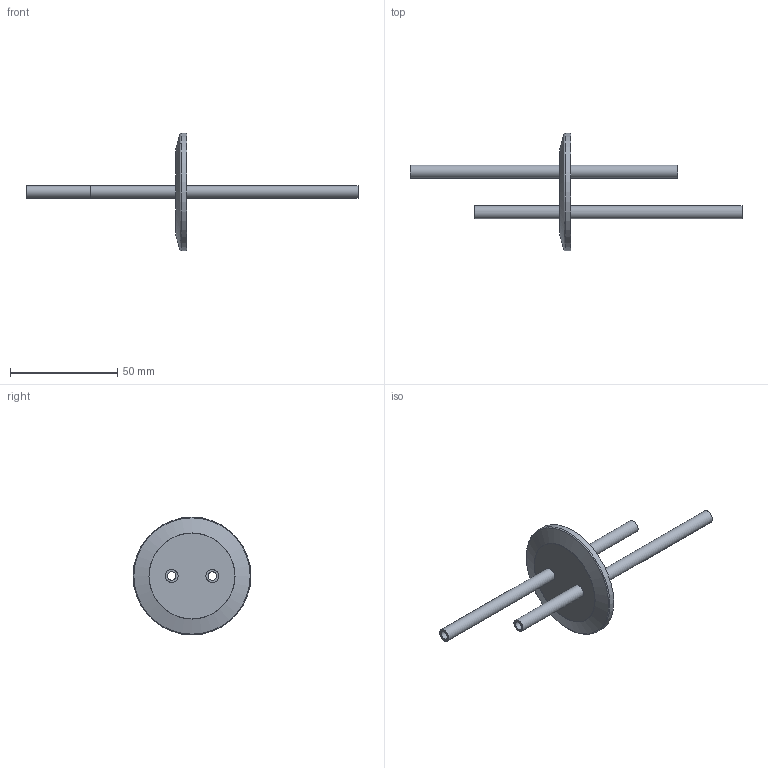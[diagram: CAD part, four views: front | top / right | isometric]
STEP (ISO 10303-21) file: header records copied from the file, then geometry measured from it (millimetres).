
FILE_DESCRIPTION( ( 'Unknown' ), '1' );
FILE_NAME( 'X:/Daten ( aktueller Bestand )/Projekte und Zeichnungen/Solid Edge/STP-Dateien/Adapter KF/1876-6.stp', 'Unknown', ( 'Unknown' ), ( 'Unknown' ), 'PSStep 14.0', 'Unknown', ' ' );
FILE_SCHEMA( ( 'AUTOMOTIVE_DESIGN { 1 0 10303 214 1 1 1 1 }' ) );
Length unit declared in the file: millimetre
Products named in the file (5): 1876-6.2; 1876-6.1; Assem1
Assembly tree (5 placements, depth 3):
  Assem1
    1876-6.1
      1876-6.1
    1876-6.2  x2
      1876-6.2
Bounding box: 155 x 55 x 55 mm (x, y, z)
Volume: 12932.3 mm3; surface area: 13786 mm2
Topology: 3 solids, 3 shells, 22 faces, 41 edges, 27 vertices
Faces by surface type: cylinder 9, plane 8, cone 3, torus 2
Full cylindrical faces by diameter (mm): 4 x2, 6 x4, 31.5 x1, 41.2 x1, 55 x1
Entity records: 640 total; most frequent: DIRECTION 90, CARTESIAN_POINT 64, AXIS2_PLACEMENT_3D 45, EDGE_LOOP 38, ORIENTED_EDGE 38, FACE_OUTER_BOUND 27, EDGE_CURVE 19, VERTEX_POINT 19
